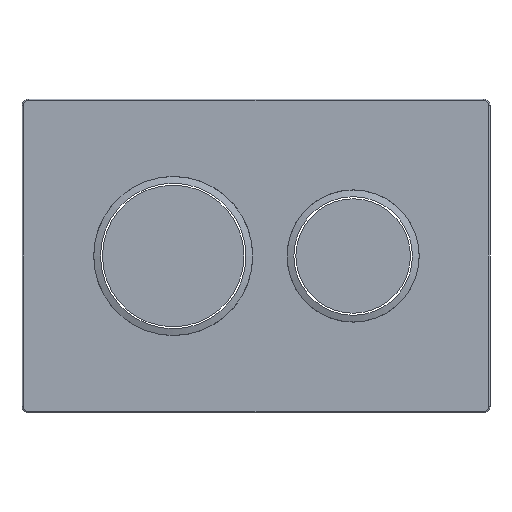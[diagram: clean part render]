
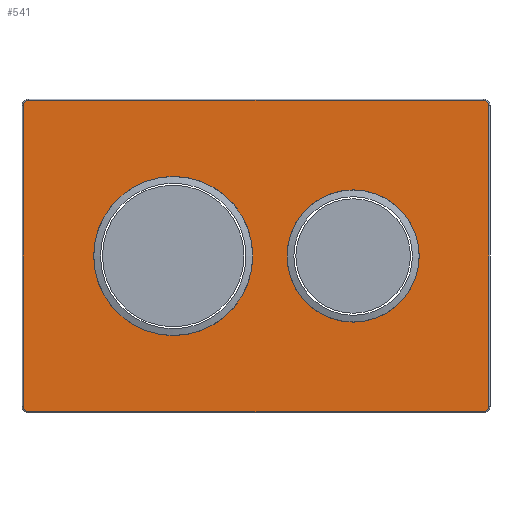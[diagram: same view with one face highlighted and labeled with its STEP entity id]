
A CAD part, front view. The second image highlights one B-rep face of the part: STEP entity #541.
In plain terms, the highlighted planar face has unit normal (0, -1, 0).
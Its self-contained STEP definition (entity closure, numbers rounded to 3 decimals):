
#26=LINE('',#920,#46);
#27=LINE('',#924,#47);
#28=LINE('',#928,#48);
#29=LINE('',#931,#49);
#46=VECTOR('',#758,136.);
#47=VECTOR('',#761,206.);
#48=VECTOR('',#764,136.);
#49=VECTOR('',#767,206.);
#78=FACE_BOUND('',#177,.T.);
#79=FACE_BOUND('',#178,.T.);
#124=FACE_OUTER_BOUND('',#176,.T.);
#176=EDGE_LOOP('',(#390,#391,#392,#393,#394,#395,#396,#397));
#177=EDGE_LOOP('',(#398));
#178=EDGE_LOOP('',(#399));
#218=CIRCLE('',#624,2.5);
#219=CIRCLE('',#625,2.5);
#220=CIRCLE('',#626,2.5);
#221=CIRCLE('',#627,2.5);
#222=CIRCLE('',#628,29.95);
#223=CIRCLE('',#629,36.05);
#264=VERTEX_POINT('',#916);
#265=VERTEX_POINT('',#917);
#266=VERTEX_POINT('',#919);
#267=VERTEX_POINT('',#921);
#268=VERTEX_POINT('',#923);
#269=VERTEX_POINT('',#925);
#270=VERTEX_POINT('',#927);
#271=VERTEX_POINT('',#929);
#272=VERTEX_POINT('',#932);
#273=VERTEX_POINT('',#934);
#311=EDGE_CURVE('',#264,#265,#218,.T.);
#312=EDGE_CURVE('',#266,#264,#26,.T.);
#313=EDGE_CURVE('',#267,#266,#219,.T.);
#314=EDGE_CURVE('',#268,#267,#27,.T.);
#315=EDGE_CURVE('',#269,#268,#220,.T.);
#316=EDGE_CURVE('',#270,#269,#28,.T.);
#317=EDGE_CURVE('',#271,#270,#221,.T.);
#318=EDGE_CURVE('',#265,#271,#29,.T.);
#319=EDGE_CURVE('',#272,#272,#222,.T.);
#320=EDGE_CURVE('',#273,#273,#223,.T.);
#390=ORIENTED_EDGE('',*,*,#311,.F.);
#391=ORIENTED_EDGE('',*,*,#312,.F.);
#392=ORIENTED_EDGE('',*,*,#313,.F.);
#393=ORIENTED_EDGE('',*,*,#314,.F.);
#394=ORIENTED_EDGE('',*,*,#315,.F.);
#395=ORIENTED_EDGE('',*,*,#316,.F.);
#396=ORIENTED_EDGE('',*,*,#317,.F.);
#397=ORIENTED_EDGE('',*,*,#318,.F.);
#398=ORIENTED_EDGE('',*,*,#319,.T.);
#399=ORIENTED_EDGE('',*,*,#320,.T.);
#472=PLANE('',#623);
#541=ADVANCED_FACE('',(#124,#78,#79),#472,.T.);
#623=AXIS2_PLACEMENT_3D('',#915,#754,#755);
#624=AXIS2_PLACEMENT_3D('',#918,#756,#757);
#625=AXIS2_PLACEMENT_3D('',#922,#759,#760);
#626=AXIS2_PLACEMENT_3D('',#926,#762,#763);
#627=AXIS2_PLACEMENT_3D('',#930,#765,#766);
#628=AXIS2_PLACEMENT_3D('',#933,#768,#769);
#629=AXIS2_PLACEMENT_3D('',#935,#770,#771);
#754=DIRECTION('center_axis',(0.,-1.,0.));
#755=DIRECTION('ref_axis',(0.,0.,-1.));
#756=DIRECTION('center_axis',(0.,1.,0.));
#757=DIRECTION('ref_axis',(-0.707,0.,0.707));
#758=DIRECTION('',(0.,0.,1.));
#759=DIRECTION('center_axis',(0.,1.,0.));
#760=DIRECTION('ref_axis',(-0.707,0.,-0.707));
#761=DIRECTION('',(-1.,0.,0.));
#762=DIRECTION('center_axis',(0.,1.,0.));
#763=DIRECTION('ref_axis',(0.707,0.,-0.707));
#764=DIRECTION('',(0.,0.,-1.));
#765=DIRECTION('center_axis',(0.,1.,0.));
#766=DIRECTION('ref_axis',(0.707,0.,0.707));
#767=DIRECTION('',(1.,0.,0.));
#768=DIRECTION('center_axis',(0.,1.,0.));
#769=DIRECTION('ref_axis',(0.,0.,1.));
#770=DIRECTION('center_axis',(0.,1.,0.));
#771=DIRECTION('ref_axis',(0.,0.,1.));
#915=CARTESIAN_POINT('Origin',(0.,-11.,0.));
#916=CARTESIAN_POINT('',(-105.5,-11.,68.));
#917=CARTESIAN_POINT('',(-103.,-11.,70.5));
#918=CARTESIAN_POINT('Origin',(-103.,-11.,68.));
#919=CARTESIAN_POINT('',(-105.5,-11.,-68.));
#920=CARTESIAN_POINT('',(-105.5,-11.,34.));
#921=CARTESIAN_POINT('',(-103.,-11.,-70.5));
#922=CARTESIAN_POINT('Origin',(-103.,-11.,-68.));
#923=CARTESIAN_POINT('',(103.,-11.,-70.5));
#924=CARTESIAN_POINT('',(-51.5,-11.,-70.5));
#925=CARTESIAN_POINT('',(105.5,-11.,-68.));
#926=CARTESIAN_POINT('Origin',(103.,-11.,-68.));
#927=CARTESIAN_POINT('',(105.5,-11.,68.));
#928=CARTESIAN_POINT('',(105.5,-11.,-34.));
#929=CARTESIAN_POINT('',(103.,-11.,70.5));
#930=CARTESIAN_POINT('Origin',(103.,-11.,68.));
#931=CARTESIAN_POINT('',(51.5,-11.,70.5));
#932=CARTESIAN_POINT('',(44.,-11.,-29.95));
#933=CARTESIAN_POINT('Origin',(44.,-11.,0.));
#934=CARTESIAN_POINT('',(-37.5,-11.,-36.05));
#935=CARTESIAN_POINT('Origin',(-37.5,-11.,0.));
